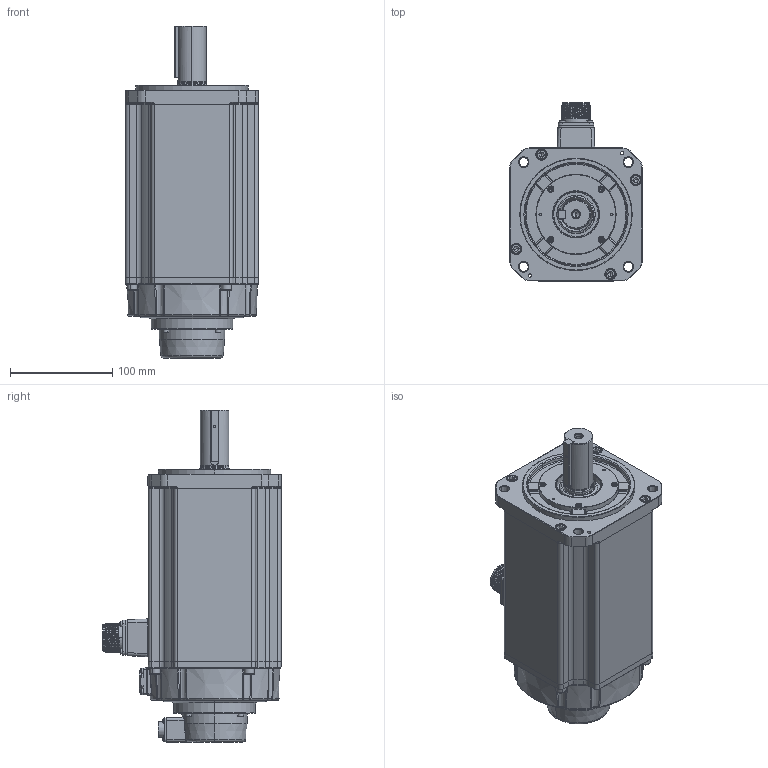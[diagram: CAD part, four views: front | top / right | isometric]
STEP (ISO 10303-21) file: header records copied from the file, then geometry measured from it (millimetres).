
FILE_DESCRIPTION (( 'STEP AP214' ), '1' );
FILE_NAME ('RSA1-S-130-4kw-B.STEP', '2024-08-12T02:19:54', ( '' ), ( '' ), 'SwSTEP 2.0', 'SolidWorks 2020', '' );
FILE_SCHEMA (( 'AUTOMOTIVE_DESIGN' ));
Length unit declared in the file: millimetre
Products named in the file (18): 130梓袧綴裔; 130雄薯瑤脣價釱; 内六角圆柱头和平垫圈组合螺钉_M3x16; 130-苤嫦講粣創裔啣; 4140000005_电机内部编码器线_7x26AWG(0.1m-CMV1-10芯螺纹插座_GACJ3045); す瑩_B8x7x50; 130-S-ヶ傷裔; 130-蚐猾_TC30x45x8(NBR); 坋趼羞攫芛蹟隊_M3x30; 内六角圆柱头螺钉_M6x20; 130-苤嫦講-粣噤28; 内六角圆柱头螺钉_M3x10; 惕掅雄薯瑤脣; ﾊｮﾗﾖｲﾛﾅﾌﾍｷﾗﾔｼｷﾂﾝｶ､_M3x8; 130-惕掅綴傷裔; 130-S-4kw儂褲; 130秶雄ん盄揤裔; RSA1-S-130-4kw-B
Assembly tree (40 placements, depth 2):
  RSA1-S-130-4kw-B
    130-S-4kw儂褲
    130雄薯瑤脣價釱
    130-S-ヶ傷裔
    130-苤嫦講-粣噤28
    惕掅雄薯瑤脣
    130-苤嫦講粣創裔啣
    130-蚐猾_TC30x45x8(NBR)
    130-惕掅綴傷裔
    130梓袧綴裔
    4140000005_电机内部编码器线_7x26AWG(0.1m-CMV1-10芯螺纹插座_GACJ3045)
    内六角圆柱头螺钉_M6x20  x8
    内六角圆柱头和平垫圈组合螺钉_M3x16  x4
    内六角圆柱头螺钉_M3x10  x4
    坋趼羞攫芛蹟隊_M3x30  x8
    ﾊｮﾗﾖｲﾛﾅﾌﾍｷﾗﾔｼｷﾂﾝｶ､_M3x8  x4
    す瑩_B8x7x50
    130秶雄ん盄揤裔
Bounding box: 130 x 174.4 x 324.9 mm (x, y, z)
Volume: 2997237.3 mm3; surface area: 323281.9 mm2
Topology: 44 solids, 46 shells, 3463 faces, 8538 edges, 5322 vertices
Faces by surface type: plane 1631, cylinder 854, cone 382, torus 308, bspline 224, sphere 64
Entity records: 113165 total; most frequent: CARTESIAN_POINT 28950, DIRECTION 14200, ORIENTED_EDGE 14128, EDGE_CURVE 7064, AXIS2_PLACEMENT_3D 5114, VERTEX_POINT 4431, VECTOR 3972, LINE 3972
